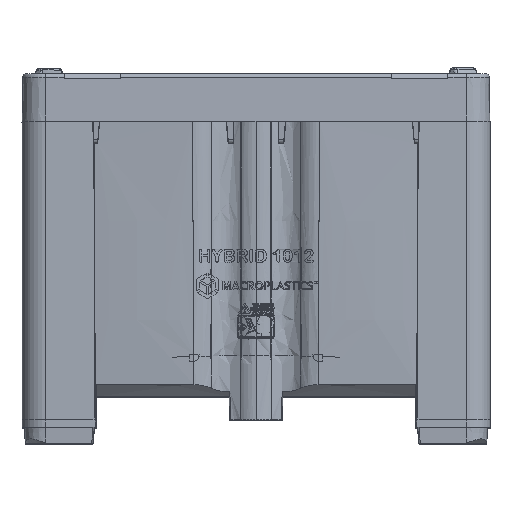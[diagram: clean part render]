
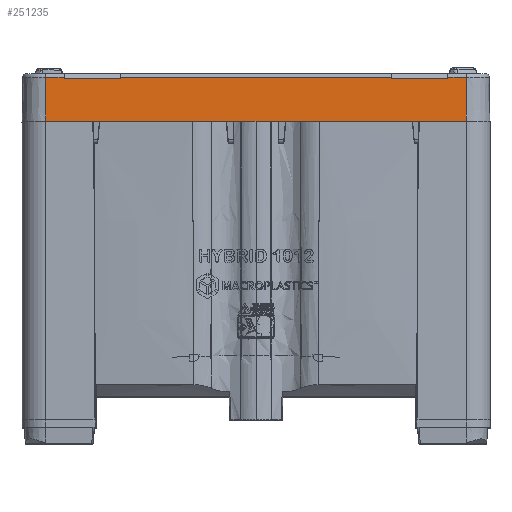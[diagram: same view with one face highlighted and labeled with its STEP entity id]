
A CAD part, top view. The second image highlights one B-rep face of the part: STEP entity #251235.
In plain terms, the highlighted planar face has unit normal (0, 0.018, 1).
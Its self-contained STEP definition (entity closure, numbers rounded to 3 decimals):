
#4800 = DIRECTION ( 'NONE',  ( -0.012, 1., -0.017 ) ) ;
#7733 = CARTESIAN_POINT ( 'NONE',  ( 449.2, 688.4, 600. ) ) ;
#8025 = LINE ( 'NONE', #102781, #60351 ) ;
#8210 = DIRECTION ( 'NONE',  ( 0., -1., 0.017 ) ) ;
#9302 = CARTESIAN_POINT ( 'NONE',  ( 0., 688.4, 600. ) ) ;
#12398 = ORIENTED_EDGE ( 'NONE', *, *, #277695, .T. ) ;
#13606 = ORIENTED_EDGE ( 'NONE', *, *, #259131, .F. ) ;
#14932 = VECTOR ( 'NONE', #234045, 1000. ) ;
#23387 = ORIENTED_EDGE ( 'NONE', *, *, #200814, .T. ) ;
#36311 = PLANE ( 'NONE',  #202123 ) ;
#38226 = EDGE_CURVE ( 'NONE', #211836, #86774, #138223, .T. ) ;
#42814 = CARTESIAN_POINT ( 'NONE',  ( -410.133, 790.185, 598.223 ) ) ;
#43890 = ORIENTED_EDGE ( 'NONE', *, *, #178950, .T. ) ;
#45362 = ORIENTED_EDGE ( 'NONE', *, *, #38226, .T. ) ;
#47899 = CARTESIAN_POINT ( 'NONE',  ( -410., 779.301, 598.413 ) ) ;
#54139 = DIRECTION ( 'NONE',  ( 0., 1., -0.017 ) ) ;
#55591 = LINE ( 'NONE', #60939, #87882 ) ;
#60351 = VECTOR ( 'NONE', #312020, 1000. ) ;
#60939 = CARTESIAN_POINT ( 'NONE',  ( 0., 782.14, 598.364 ) ) ;
#68990 = VECTOR ( 'NONE', #145707, 1000. ) ;
#71867 = LINE ( 'NONE', #282699, #124224 ) ;
#76698 = VERTEX_POINT ( 'NONE', #124661 ) ;
#86774 = VERTEX_POINT ( 'NONE', #253192 ) ;
#87882 = VECTOR ( 'NONE', #241003, 1000. ) ;
#97688 = EDGE_CURVE ( 'NONE', #131254, #211836, #329237, .T. ) ;
#102781 = CARTESIAN_POINT ( 'NONE',  ( 449.2, 688.4, 600. ) ) ;
#112634 = ORIENTED_EDGE ( 'NONE', *, *, #181299, .F. ) ;
#123976 = VERTEX_POINT ( 'NONE', #7733 ) ;
#124224 = VECTOR ( 'NONE', #54139, 1000. ) ;
#124661 = CARTESIAN_POINT ( 'NONE',  ( -449.2, 688.4, 600. ) ) ;
#131254 = VERTEX_POINT ( 'NONE', #250775 ) ;
#138223 = LINE ( 'NONE', #210848, #279394 ) ;
#139292 = EDGE_CURVE ( 'NONE', #76698, #277608, #71867, .T. ) ;
#145523 = VERTEX_POINT ( 'NONE', #187083 ) ;
#145707 = DIRECTION ( 'NONE',  ( 1., 0., 0. ) ) ;
#148297 = FACE_OUTER_BOUND ( 'NONE', #221475, .T. ) ;
#150517 = VERTEX_POINT ( 'NONE', #304121 ) ;
#157792 = ORIENTED_EDGE ( 'NONE', *, *, #97688, .T. ) ;
#161973 = LINE ( 'NONE', #323234, #230396 ) ;
#167110 = VERTEX_POINT ( 'NONE', #304860 ) ;
#167771 = DIRECTION ( 'NONE',  ( -1., 0., 0. ) ) ;
#171628 = EDGE_CURVE ( 'NONE', #150517, #190293, #55591, .T. ) ;
#178950 = EDGE_CURVE ( 'NONE', #167110, #145523, #186720, .T. ) ;
#181299 = EDGE_CURVE ( 'NONE', #167110, #195267, #238647, .T. ) ;
#186720 = LINE ( 'NONE', #42814, #210909 ) ;
#187083 = CARTESIAN_POINT ( 'NONE',  ( -410.035, 782.14, 598.364 ) ) ;
#190293 = VERTEX_POINT ( 'NONE', #316056 ) ;
#195267 = VERTEX_POINT ( 'NONE', #231704 ) ;
#200814 = EDGE_CURVE ( 'NONE', #76698, #123976, #250153, .T. ) ;
#202123 = AXIS2_PLACEMENT_3D ( 'NONE', #9302, #263744, #8210 ) ;
#204514 = DIRECTION ( 'NONE',  ( 1., 0., 0. ) ) ;
#208227 = VERTEX_POINT ( 'NONE', #280823 ) ;
#210848 = CARTESIAN_POINT ( 'NONE',  ( 289.867, 790.185, 598.223 ) ) ;
#210909 = VECTOR ( 'NONE', #219582, 1000. ) ;
#211836 = VERTEX_POINT ( 'NONE', #241781 ) ;
#212213 = ORIENTED_EDGE ( 'NONE', *, *, #171628, .T. ) ;
#215053 = CARTESIAN_POINT ( 'NONE',  ( 410., 779.301, 598.413 ) ) ;
#216487 = LINE ( 'NONE', #259923, #14932 ) ;
#219582 = DIRECTION ( 'NONE',  ( -0.012, 1., -0.017 ) ) ;
#221475 = EDGE_LOOP ( 'NONE', ( #221958, #13606, #112634, #43890, #270771, #225182, #23387, #12398, #212213, #236211, #157792, #45362 ) ) ;
#221958 = ORIENTED_EDGE ( 'NONE', *, *, #222263, .T. ) ;
#222263 = EDGE_CURVE ( 'NONE', #86774, #208227, #216487, .T. ) ;
#225182 = ORIENTED_EDGE ( 'NONE', *, *, #139292, .F. ) ;
#230396 = VECTOR ( 'NONE', #318814, 1000. ) ;
#231704 = CARTESIAN_POINT ( 'NONE',  ( -290., 779.301, 598.413 ) ) ;
#233501 = EDGE_CURVE ( 'NONE', #277608, #145523, #234065, .T. ) ;
#234045 = DIRECTION ( 'NONE',  ( -1., 0., 0. ) ) ;
#234065 = LINE ( 'NONE', #330418, #250150 ) ;
#236211 = ORIENTED_EDGE ( 'NONE', *, *, #269365, .F. ) ;
#238647 = LINE ( 'NONE', #47899, #250549 ) ;
#241003 = DIRECTION ( 'NONE',  ( -1., 0., 0. ) ) ;
#241781 = CARTESIAN_POINT ( 'NONE',  ( 290., 779.301, 598.413 ) ) ;
#250150 = VECTOR ( 'NONE', #204514, 1000. ) ;
#250153 = LINE ( 'NONE', #299851, #68990 ) ;
#250549 = VECTOR ( 'NONE', #256083, 1000. ) ;
#250775 = CARTESIAN_POINT ( 'NONE',  ( 410., 779.301, 598.413 ) ) ;
#251235 = ADVANCED_FACE ( 'NONE', ( #148297 ), #36311, .T. ) ;
#253192 = CARTESIAN_POINT ( 'NONE',  ( 289.965, 782.14, 598.364 ) ) ;
#256083 = DIRECTION ( 'NONE',  ( 1., 0., 0. ) ) ;
#258092 = DIRECTION ( 'NONE',  ( 0.012, 1., -0.017 ) ) ;
#259131 = EDGE_CURVE ( 'NONE', #195267, #208227, #308754, .T. ) ;
#259923 = CARTESIAN_POINT ( 'NONE',  ( 0., 782.14, 598.364 ) ) ;
#263744 = DIRECTION ( 'NONE',  ( 0., 0.017, 1. ) ) ;
#269365 = EDGE_CURVE ( 'NONE', #131254, #190293, #161973, .T. ) ;
#270771 = ORIENTED_EDGE ( 'NONE', *, *, #233501, .F. ) ;
#276175 = CARTESIAN_POINT ( 'NONE',  ( -449.2, 782.14, 598.364 ) ) ;
#277002 = VECTOR ( 'NONE', #167771, 1000. ) ;
#277608 = VERTEX_POINT ( 'NONE', #276175 ) ;
#277695 = EDGE_CURVE ( 'NONE', #123976, #150517, #8025, .T. ) ;
#279394 = VECTOR ( 'NONE', #4800, 1000. ) ;
#280823 = CARTESIAN_POINT ( 'NONE',  ( -289.965, 782.14, 598.364 ) ) ;
#282699 = CARTESIAN_POINT ( 'NONE',  ( -449.2, 688.4, 600. ) ) ;
#299851 = CARTESIAN_POINT ( 'NONE',  ( 0., 688.4, 600. ) ) ;
#304121 = CARTESIAN_POINT ( 'NONE',  ( 449.2, 782.14, 598.364 ) ) ;
#304860 = CARTESIAN_POINT ( 'NONE',  ( -410., 779.301, 598.413 ) ) ;
#308754 = LINE ( 'NONE', #309830, #332923 ) ;
#309830 = CARTESIAN_POINT ( 'NONE',  ( -289.867, 790.185, 598.223 ) ) ;
#312020 = DIRECTION ( 'NONE',  ( 0., 1., -0.017 ) ) ;
#316056 = CARTESIAN_POINT ( 'NONE',  ( 410.035, 782.14, 598.364 ) ) ;
#318814 = DIRECTION ( 'NONE',  ( 0.012, 1., -0.017 ) ) ;
#323234 = CARTESIAN_POINT ( 'NONE',  ( 410.133, 790.185, 598.223 ) ) ;
#329237 = LINE ( 'NONE', #215053, #277002 ) ;
#330418 = CARTESIAN_POINT ( 'NONE',  ( 0., 782.14, 598.364 ) ) ;
#332923 = VECTOR ( 'NONE', #258092, 1000. ) ;
